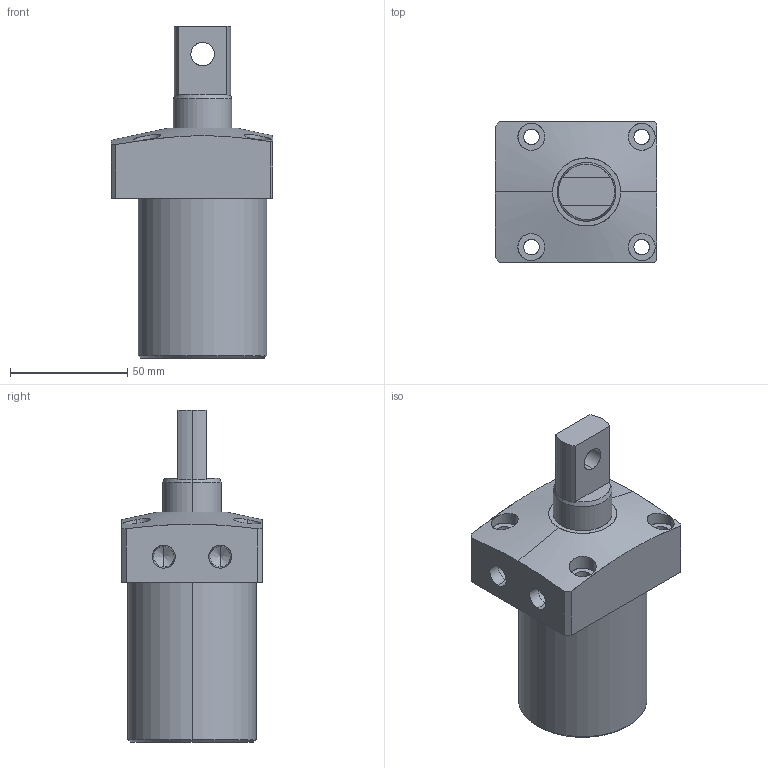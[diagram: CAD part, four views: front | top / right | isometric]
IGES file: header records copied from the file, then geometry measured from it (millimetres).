
Start section: SolidWorks IGES file using analytic representation for surfaces
Global section: file name: E:\ALL SSVT IGS MODEL\ALL-SWING-IGS\SWING-55\SWING-TOP-55-PTYPE-LH-RH\SC02-552-LP-PTYPE-TOP.IGS; native system: SolidWorks 2019; preprocessor: SolidWorks 2019; author: SSVT; date: 210822.133113; units: millimetre
Bounding box: 69 x 60 x 141.5 mm (x, y, z)
Surface area: 45670 mm2 (no closed solid volume)
Topology: 0 solids, 0 shells, 73 faces, 1555 edges, 1551 vertices
Faces by surface type: revolution 49, bspline 24
